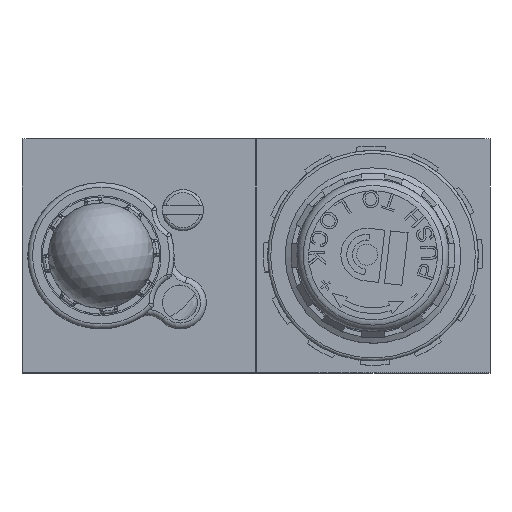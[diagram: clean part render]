
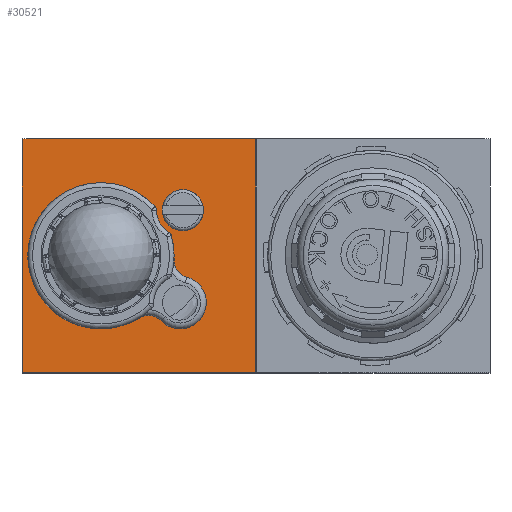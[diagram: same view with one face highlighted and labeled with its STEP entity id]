
A CAD part, top view. The second image highlights one B-rep face of the part: STEP entity #30521.
In plain terms, the highlighted planar face has unit normal (0, 0, 1).
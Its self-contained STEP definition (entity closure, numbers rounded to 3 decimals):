
#29970=CARTESIAN_POINT('',(-5.05,7.5,29.));
#29971=VERTEX_POINT('',#29970);
#29972=CARTESIAN_POINT('',(-7.8,7.5,29.));
#29973=DIRECTION('',(0.0,0.0,-1.0));
#29974=DIRECTION('',(1.0,0.0,0.0));
#29975=AXIS2_PLACEMENT_3D('',#29972,#29973,#29974);
#29976=CIRCLE('',#29975,2.75);
#29977=EDGE_CURVE('',#29971,#29971,#29976,.T.);
#30323=CARTESIAN_POINT('',(10.654,0.037,29.));
#30324=VERTEX_POINT('',#30323);
#30331=CARTESIAN_POINT('',(11.127,3.764,29.));
#30332=VERTEX_POINT('',#30331);
#30333=CARTESIAN_POINT('',(13.211,1.606,29.));
#30334=DIRECTION('',(0.0,0.0,1.0));
#30335=DIRECTION('',(0.852,0.523,0.0));
#30336=AXIS2_PLACEMENT_3D('',#30333,#30334,#30335);
#30337=CIRCLE('',#30336,3.);
#30338=EDGE_CURVE('',#30332,#30324,#30337,.T.);
#30388=CARTESIAN_POINT('',(3.66,8.189,29.));
#30389=VERTEX_POINT('',#30388);
#30390=CARTESIAN_POINT('',(8.0,7.,29.));
#30391=DIRECTION('',(0.0,0.0,-1.0));
#30392=DIRECTION('',(-1.0,0.0,0.0));
#30393=AXIS2_PLACEMENT_3D('',#30390,#30391,#30392);
#30394=CIRCLE('',#30393,4.5);
#30395=EDGE_CURVE('',#30389,#30332,#30394,.T.);
#30413=CARTESIAN_POINT('',(0.618,5.985,29.));
#30414=VERTEX_POINT('',#30413);
#30415=CARTESIAN_POINT('',(0.766,8.981,29.));
#30416=DIRECTION('',(0.0,0.0,1.));
#30417=DIRECTION('',(0.049,0.999,0.0));
#30418=AXIS2_PLACEMENT_3D('',#30415,#30416,#30417);
#30419=CIRCLE('',#30418,3.);
#30420=EDGE_CURVE('',#30414,#30389,#30419,.T.);
#30431=CARTESIAN_POINT('',(0.,0.,29.));
#30432=DIRECTION('',(0.0,0.0,1.0));
#30433=DIRECTION('',(1.0,0.0,0.0));
#30434=AXIS2_PLACEMENT_3D('',#30431,#30432,#30433);
#30435=PLANE('',#30434);
#30436=CARTESIAN_POINT('',(20.0,20.0,29.));
#30437=VERTEX_POINT('',#30436);
#30438=CARTESIAN_POINT('',(20.,-20.0,29.));
#30439=VERTEX_POINT('',#30438);
#30440=CARTESIAN_POINT('',(20.0,20.0,29.));
#30441=DIRECTION('',(0.0,-1.0,0.0));
#30442=VECTOR('',#30441,40.0);
#30443=LINE('',#30440,#30442);
#30444=EDGE_CURVE('',#30437,#30439,#30443,.T.);
#30445=ORIENTED_EDGE('',*,*,#30444,.F.);
#30446=CARTESIAN_POINT('',(-20.,20.0,29.));
#30447=VERTEX_POINT('',#30446);
#30448=CARTESIAN_POINT('',(-20.,20.0,29.));
#30449=DIRECTION('',(1.0,0.0,0.0));
#30450=VECTOR('',#30449,40.);
#30451=LINE('',#30448,#30450);
#30452=EDGE_CURVE('',#30447,#30437,#30451,.T.);
#30453=ORIENTED_EDGE('',*,*,#30452,.F.);
#30454=CARTESIAN_POINT('',(-20.,-20.,29.));
#30455=VERTEX_POINT('',#30454);
#30456=CARTESIAN_POINT('',(-20.,-20.,29.));
#30457=DIRECTION('',(0.0,1.0,0.0));
#30458=VECTOR('',#30457,40.);
#30459=LINE('',#30456,#30458);
#30460=EDGE_CURVE('',#30455,#30447,#30459,.T.);
#30461=ORIENTED_EDGE('',*,*,#30460,.F.);
#30462=CARTESIAN_POINT('',(20.,-20.0,29.));
#30463=DIRECTION('',(-1.0,0.0,0.0));
#30464=VECTOR('',#30463,40.);
#30465=LINE('',#30462,#30464);
#30466=EDGE_CURVE('',#30439,#30455,#30465,.T.);
#30467=ORIENTED_EDGE('',*,*,#30466,.F.);
#30468=EDGE_LOOP('',(#30445,#30453,#30461,#30467));
#30469=FACE_OUTER_BOUND('',#30468,.T.);
#30470=ORIENTED_EDGE('',*,*,#29977,.T.);
#30471=EDGE_LOOP('',(#30470));
#30472=FACE_BOUND('',#30471,.T.);
#30473=ORIENTED_EDGE('',*,*,#30338,.T.);
#30474=CARTESIAN_POINT('',(-8.419,2.739,29.));
#30475=VERTEX_POINT('',#30474);
#30476=CARTESIAN_POINT('',(0.0,-6.5,29.));
#30477=DIRECTION('',(0.0,0.0,-1.0));
#30478=DIRECTION('',(-0.649,0.761,0.0));
#30479=AXIS2_PLACEMENT_3D('',#30476,#30477,#30478);
#30480=CIRCLE('',#30479,12.5);
#30481=EDGE_CURVE('',#30324,#30475,#30480,.T.);
#30482=ORIENTED_EDGE('',*,*,#30481,.T.);
#30483=CARTESIAN_POINT('',(-7.756,3.,29.));
#30484=VERTEX_POINT('',#30483);
#30485=CARTESIAN_POINT('',(-7.746,2.,29.));
#30486=DIRECTION('',(0.0,0.0,-1.));
#30487=DIRECTION('',(-0.366,0.931,0.0));
#30488=AXIS2_PLACEMENT_3D('',#30485,#30486,#30487);
#30489=CIRCLE('',#30488,1.0);
#30490=EDGE_CURVE('',#30484,#30475,#30489,.F.);
#30491=ORIENTED_EDGE('',*,*,#30490,.F.);
#30492=CARTESIAN_POINT('',(-3.997,5.094,29.));
#30493=VERTEX_POINT('',#30492);
#30494=CARTESIAN_POINT('',(-7.8,7.5,29.));
#30495=DIRECTION('',(0.0,0.0,1.));
#30496=DIRECTION('',(0.069,0.998,0.0));
#30497=AXIS2_PLACEMENT_3D('',#30494,#30495,#30496);
#30498=CIRCLE('',#30497,4.5);
#30499=EDGE_CURVE('',#30484,#30493,#30498,.T.);
#30500=ORIENTED_EDGE('',*,*,#30499,.T.);
#30501=CARTESIAN_POINT('',(-3.426,5.521,29.));
#30502=VERTEX_POINT('',#30501);
#30503=CARTESIAN_POINT('',(-3.152,4.56,29.));
#30504=DIRECTION('',(0.0,0.0,-1.0));
#30505=DIRECTION('',(-0.599,0.801,0.0));
#30506=AXIS2_PLACEMENT_3D('',#30503,#30504,#30505);
#30507=CIRCLE('',#30506,1.0);
#30508=EDGE_CURVE('',#30502,#30493,#30507,.F.);
#30509=ORIENTED_EDGE('',*,*,#30508,.F.);
#30510=CARTESIAN_POINT('',(0.0,-6.5,29.));
#30511=DIRECTION('',(0.0,0.0,-1.));
#30512=DIRECTION('',(0.303,0.953,0.0));
#30513=AXIS2_PLACEMENT_3D('',#30510,#30511,#30512);
#30514=CIRCLE('',#30513,12.5);
#30515=EDGE_CURVE('',#30502,#30414,#30514,.T.);
#30516=ORIENTED_EDGE('',*,*,#30515,.T.);
#30517=ORIENTED_EDGE('',*,*,#30420,.T.);
#30518=ORIENTED_EDGE('',*,*,#30395,.T.);
#30519=EDGE_LOOP('',(#30473,#30482,#30491,#30500,#30509,#30516,#30517,#30518));
#30520=FACE_BOUND('',#30519,.T.);
#30521=ADVANCED_FACE('',(#30469,#30472,#30520),#30435,.T.);
